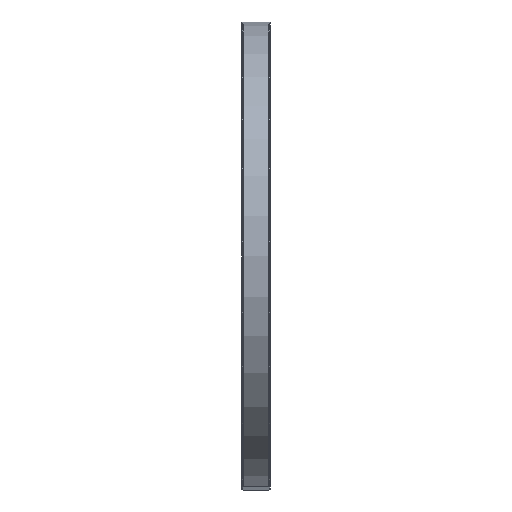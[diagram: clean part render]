
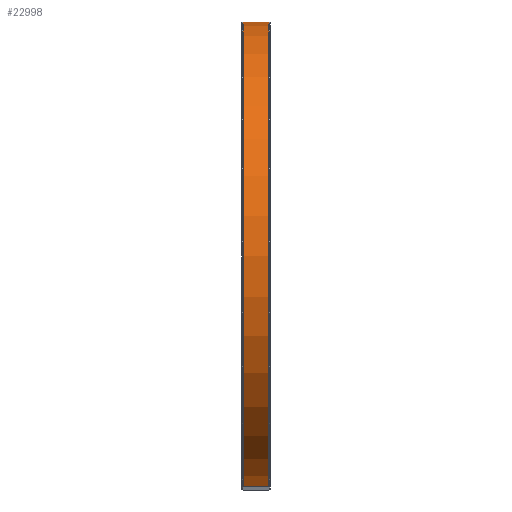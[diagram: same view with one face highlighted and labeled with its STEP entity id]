
A CAD part, front view. The second image highlights one B-rep face of the part: STEP entity #22998.
In plain terms, the highlighted cylindrical face has radius 81.175 mm (diameter 162.35 mm), a partial arc.
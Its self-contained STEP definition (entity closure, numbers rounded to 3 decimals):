
#514 = VERTEX_POINT ( 'NONE', #15691 ) ;
#2470 = CARTESIAN_POINT ( 'NONE',  ( -6.206, 15.42, 76.631 ) ) ;
#2876 = DIRECTION ( 'NONE',  ( 1., 0., 0. ) ) ;
#3733 = ORIENTED_EDGE ( 'NONE', *, *, #4511, .F. ) ;
#3806 = CARTESIAN_POINT ( 'NONE',  ( 2.794, 15.42, 76.631 ) ) ;
#4511 = EDGE_CURVE ( 'NONE', #17492, #514, #4873, .T. ) ;
#4873 = LINE ( 'NONE', #19939, #17816 ) ;
#5182 = EDGE_CURVE ( 'NONE', #22617, #20385, #11039, .T. ) ;
#5410 = DIRECTION ( 'NONE',  ( -1., 0., 0. ) ) ;
#6913 = CARTESIAN_POINT ( 'NONE',  ( -6.206, 1.473, -3.337 ) ) ;
#7164 = ORIENTED_EDGE ( 'NONE', *, *, #5182, .T. ) ;
#7913 = FACE_OUTER_BOUND ( 'NONE', #9456, .T. ) ;
#8240 = AXIS2_PLACEMENT_3D ( 'NONE', #6913, #17351, #9158 ) ;
#9158 = DIRECTION ( 'NONE',  ( 0., 0.172, 0.985 ) ) ;
#9456 = EDGE_LOOP ( 'NONE', ( #10377, #7164, #21399, #3733 ) ) ;
#9625 = DIRECTION ( 'NONE',  ( -1., 0., 0. ) ) ;
#9993 = CIRCLE ( 'NONE', #25814, 81.175 ) ;
#10377 = ORIENTED_EDGE ( 'NONE', *, *, #24029, .F. ) ;
#11039 = LINE ( 'NONE', #19511, #12659 ) ;
#11905 = DIRECTION ( 'NONE',  ( 0., -0.172, -0.985 ) ) ;
#12048 = CYLINDRICAL_SURFACE ( 'NONE', #22590, 81.175 ) ;
#12659 = VECTOR ( 'NONE', #26440, 1000. ) ;
#13572 = DIRECTION ( 'NONE',  ( 0., 0.172, 0.985 ) ) ;
#15691 = CARTESIAN_POINT ( 'NONE',  ( -6.206, -12.474, -83.305 ) ) ;
#17351 = DIRECTION ( 'NONE',  ( 1., 0., 0. ) ) ;
#17492 = VERTEX_POINT ( 'NONE', #26082 ) ;
#17816 = VECTOR ( 'NONE', #9625, 1000. ) ;
#19511 = CARTESIAN_POINT ( 'NONE',  ( 2.794, 15.42, 76.631 ) ) ;
#19939 = CARTESIAN_POINT ( 'NONE',  ( 2.794, -12.474, -83.305 ) ) ;
#20385 = VERTEX_POINT ( 'NONE', #2470 ) ;
#20775 = CARTESIAN_POINT ( 'NONE',  ( 2.794, 1.473, -3.337 ) ) ;
#21399 = ORIENTED_EDGE ( 'NONE', *, *, #26247, .T. ) ;
#22025 = CARTESIAN_POINT ( 'NONE',  ( 2.794, 1.473, -3.337 ) ) ;
#22590 = AXIS2_PLACEMENT_3D ( 'NONE', #20775, #5410, #11905 ) ;
#22617 = VERTEX_POINT ( 'NONE', #3806 ) ;
#22998 = ADVANCED_FACE ( 'NONE', ( #7913 ), #12048, .T. ) ;
#24029 = EDGE_CURVE ( 'NONE', #22617, #17492, #9993, .T. ) ;
#24068 = CIRCLE ( 'NONE', #8240, 81.175 ) ;
#25814 = AXIS2_PLACEMENT_3D ( 'NONE', #22025, #2876, #13572 ) ;
#26082 = CARTESIAN_POINT ( 'NONE',  ( 2.794, -12.474, -83.305 ) ) ;
#26247 = EDGE_CURVE ( 'NONE', #20385, #514, #24068, .T. ) ;
#26440 = DIRECTION ( 'NONE',  ( -1., 0., 0. ) ) ;
